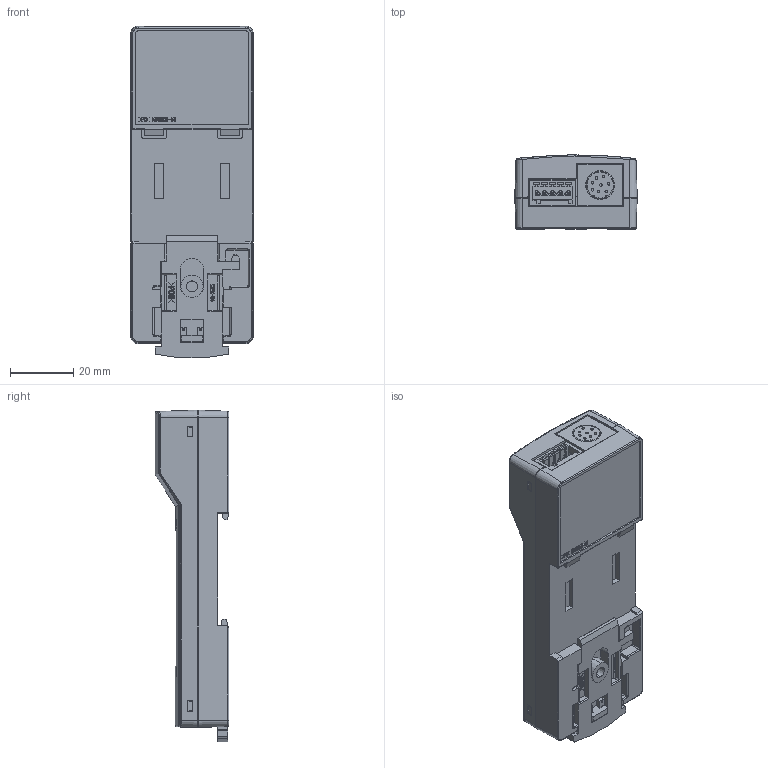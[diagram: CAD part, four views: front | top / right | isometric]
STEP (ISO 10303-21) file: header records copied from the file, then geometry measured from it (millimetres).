
FILE_DESCRIPTION (( 'STEP AP203' ), '1' );
FILE_NAME ('YICOMKG-5 (0).STEP', '2020-05-03T08:10:49', ( '' ), ( '' ), 'SwSTEP 2.0', 'SolidWorks 2018', '' );
FILE_SCHEMA (( 'CONFIG_CONTROL_DESIGN' ));
Length unit declared in the file: millimetre
Products named in the file (7): 548190572_DS295A; KCOMKG-54_web_デフォルト; KCOMKG-51_web_デフォルト; CJ105-8; MC0.5-5-G-2.5_MC0.5-5-G-2.5; KSRZ-54(1)_WEB_デフォルト; YICOMKG-5 (0)
Assembly tree (6 placements, depth 2):
  YICOMKG-5 (0)
    KCOMKG-54_web_デフォルト
    KCOMKG-51_web_デフォルト
    CJ105-8
    MC0.5-5-G-2.5_MC0.5-5-G-2.5
    548190572_DS295A
    KSRZ-54(1)_WEB_デフォルト
Bounding box: 38.63 x 23.19 x 104.54 mm (x, y, z)
Volume: 60659.4 mm3; surface area: 27729.4 mm2
Topology: 5 solids, 6 shells, 1917 faces, 5134 edges, 3329 vertices
Faces by surface type: plane 1268, cylinder 339, bspline 255, cone 34, sphere 17, torus 4
Entity records: 69238 total; most frequent: CARTESIAN_POINT 22646, ORIENTED_EDGE 10236, DIRECTION 8287, EDGE_CURVE 5118, LINE 3815, VECTOR 3815, VERTEX_POINT 3321, AXIS2_PLACEMENT_3D 2236
